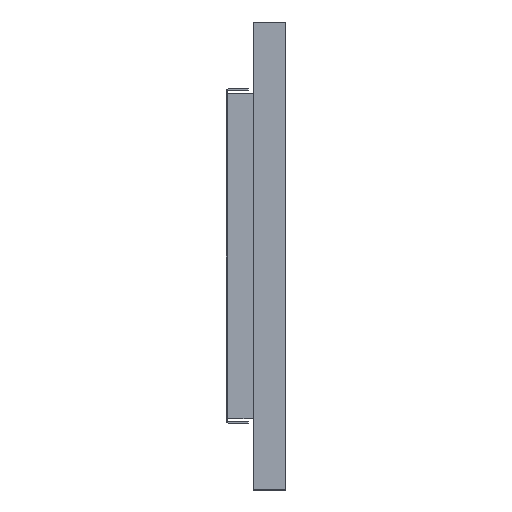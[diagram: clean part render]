
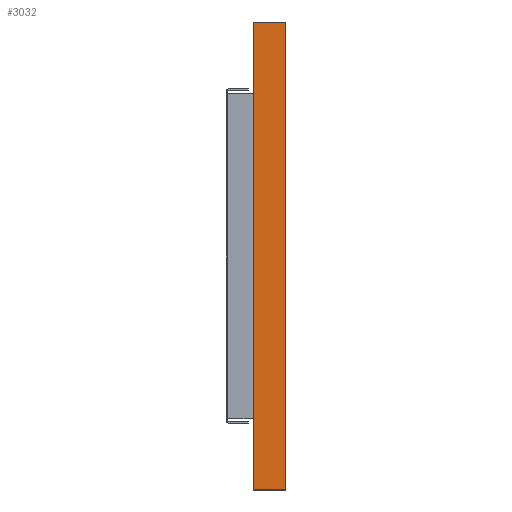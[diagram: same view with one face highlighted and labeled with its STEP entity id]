
A CAD part, left-side view. The second image highlights one B-rep face of the part: STEP entity #3032.
In plain terms, the highlighted planar face has unit normal (-1, 0, 0).
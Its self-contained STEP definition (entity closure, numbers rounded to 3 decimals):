
#13 = LINE ( 'NONE', #1192, #320 ) ;
#76 = EDGE_LOOP ( 'NONE', ( #2708, #2203, #2357, #138 ) ) ;
#110 = AXIS2_PLACEMENT_3D ( 'NONE', #2451, #2425, #334 ) ;
#138 = ORIENTED_EDGE ( 'NONE', *, *, #253, .T. ) ;
#147 = LINE ( 'NONE', #1092, #3001 ) ;
#253 = EDGE_CURVE ( 'NONE', #1450, #426, #147, .T. ) ;
#305 = LINE ( 'NONE', #2151, #1406 ) ;
#320 = VECTOR ( 'NONE', #688, 1000. ) ;
#333 = EDGE_CURVE ( 'NONE', #540, #2199, #13, .T. ) ;
#334 = DIRECTION ( 'NONE',  ( 0., 0., -1. ) ) ;
#426 = VERTEX_POINT ( 'NONE', #2050 ) ;
#540 = VERTEX_POINT ( 'NONE', #2398 ) ;
#548 = CARTESIAN_POINT ( 'NONE',  ( -258.592, -12.233, 36. ) ) ;
#551 = DIRECTION ( 'NONE',  ( 0., 0., 1. ) ) ;
#573 = VECTOR ( 'NONE', #2094, 1000. ) ;
#688 = DIRECTION ( 'NONE',  ( 0., -1., 0. ) ) ;
#908 = LINE ( 'NONE', #1444, #573 ) ;
#963 = EDGE_CURVE ( 'NONE', #1450, #540, #305, .T. ) ;
#1092 = CARTESIAN_POINT ( 'NONE',  ( -258.592, -7.233, -36. ) ) ;
#1192 = CARTESIAN_POINT ( 'NONE',  ( -258.592, -7.233, 36. ) ) ;
#1406 = VECTOR ( 'NONE', #551, 1000. ) ;
#1444 = CARTESIAN_POINT ( 'NONE',  ( -258.592, -12.233, -36. ) ) ;
#1450 = VERTEX_POINT ( 'NONE', #1992 ) ;
#1498 = FACE_OUTER_BOUND ( 'NONE', #76, .T. ) ;
#1706 = EDGE_CURVE ( 'NONE', #426, #2199, #908, .T. ) ;
#1766 = PLANE ( 'NONE',  #110 ) ;
#1992 = CARTESIAN_POINT ( 'NONE',  ( -258.592, -7.233, -36. ) ) ;
#2050 = CARTESIAN_POINT ( 'NONE',  ( -258.592, -12.233, -36. ) ) ;
#2094 = DIRECTION ( 'NONE',  ( 0., 0., 1. ) ) ;
#2151 = CARTESIAN_POINT ( 'NONE',  ( -258.592, -7.233, -36. ) ) ;
#2199 = VERTEX_POINT ( 'NONE', #548 ) ;
#2203 = ORIENTED_EDGE ( 'NONE', *, *, #333, .F. ) ;
#2357 = ORIENTED_EDGE ( 'NONE', *, *, #963, .F. ) ;
#2398 = CARTESIAN_POINT ( 'NONE',  ( -258.592, -7.233, 36. ) ) ;
#2425 = DIRECTION ( 'NONE',  ( 1., 0., 0. ) ) ;
#2438 = DIRECTION ( 'NONE',  ( 0., -1., 0. ) ) ;
#2451 = CARTESIAN_POINT ( 'NONE',  ( -258.592, -7.233, -36. ) ) ;
#2708 = ORIENTED_EDGE ( 'NONE', *, *, #1706, .T. ) ;
#3001 = VECTOR ( 'NONE', #2438, 1000. ) ;
#3032 = ADVANCED_FACE ( 'NONE', ( #1498 ), #1766, .F. ) ;
